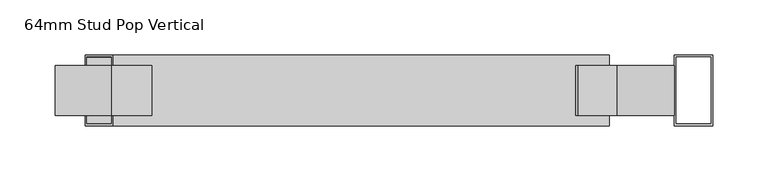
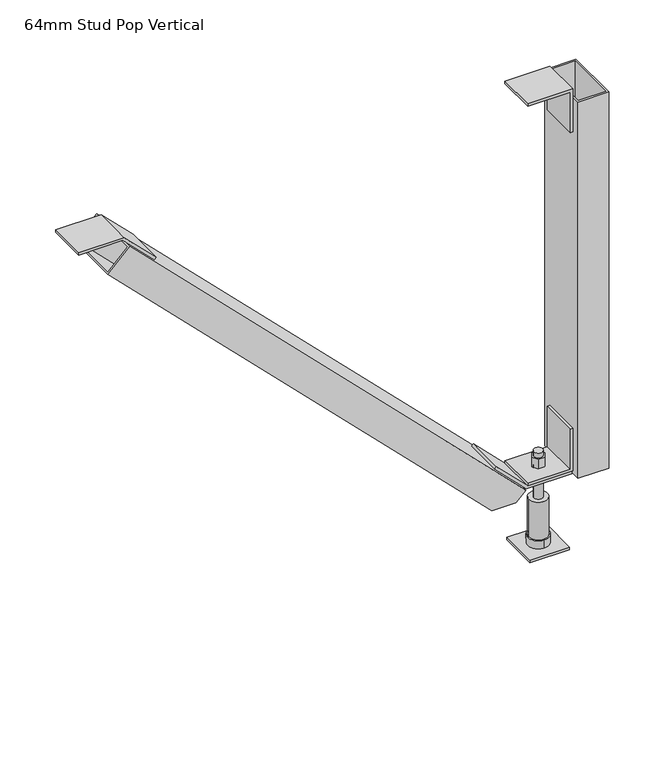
"""IFC4 building model written with IfcOpenShell, lengths in millimetres: beam geometry, Vertibrace Boxstud Brace : 64mm Stud Pop Vertical."""

from ifc_helpers import new_model, si_unit, frame, origin, origin_with_axes, place, context, project, spatial, polyline, circle_curve, outline, extrude, faceted_brep, source, transform, mapped, element, save
from ifc_brep_helpers import plane_surface, cylinder_surface, advanced_brep


def beam_64mm_stud_pop_vertical_4b45963f(model_context):
    return source(origin(), model_context, "Body", "SolidModel", [
        extrude(outline(polyline([(547.0013294, 23.235654), (498.7734408, 23.235654), (498.7734408, 26.2343246), (550.0, 26.2343246), (550.0, -24.9922346), (547.0013294, -24.9922346), (547.0013294, 23.235654)])), frame((0.0, -22.5, 0.0), z_axis=(0.0, 1.0, 0.0), x_axis=(0.0, 0.0, 1.0)), (0.0, 0.0, 1.0), 45.0),
        extrude(outline(polyline([(547.0013294, -483.535654), (511.6569723, -448.1912969), (513.7773526, -446.0709166), (550.0, -482.293564), (550.0, -533.5201232), (547.0013294, -533.5201232), (547.0013294, -483.535654)])), frame((0.0, -22.5, 0.0), z_axis=(0.0, 1.0, 0.0), x_axis=(0.0, 0.0, 1.0)), (0.0, 0.0, 1.0), 45.0),
        extrude(outline(polyline([(95.6986706, 23.235654), (95.6986706, -24.9922346), (92.7, -24.9922346), (92.7, 26.2343246), (143.9265592, 26.2343246), (143.9265592, 23.235654), (95.6986706, 23.235654)])), frame((0.0, -22.5, 0.0), z_axis=(0.0, 1.0, 0.0), x_axis=(0.0, 0.0, 1.0)), (0.0, 0.0, 1.0), 45.0),
        extrude(outline(polyline([(92.6986706, -24.9922346), (128.0430277, -60.3365917), (125.9226474, -62.456972), (89.7, -26.2343246), (89.7, 24.9922346), (92.6986706, 24.9922346), (92.6986706, -24.9922346)])), frame((0.0, -22.5, 0.0), z_axis=(0.0, 1.0, 0.0), x_axis=(0.0, 0.0, 1.0)), (0.0, 0.0, 1.0), 45.0),
        extrude(outline(polyline([(22.5, 22.5), (22.5, -22.5), (-22.5, -22.5), (-22.5, 22.5), (22.5, 22.5)])), origin_with_axes(), (0.0, 0.0, 1.0), 3.0),
        advanced_brep(
        [(-5.0, 0.0, 0.0), (5.0, 0.0, 0.0), (-5.0, 0.0, 113.0), (5.0, 0.0, 113.0), (5.0, 0.0, 3.0), (-5.0, 0.0, 3.0), (-5.0, 0.0, 107.4), (5.0, 0.0, 107.4), (-5.0, 0.0, 58.0), (5.0, 0.0, 58.0), (5.0, 0.0, 83.0), (-5.0, 0.0, 83.0), (5.0, 0.0, 95.7), (-5.0, 0.0, 95.7), (-5.0, 0.0, 89.7), (5.0, 0.0, 89.7), (-10.5, 0.0, 58.0), (10.5, 0.0, 58.0), (-10.5, 0.0, 13.0), (10.5, 0.0, 13.0), (0.0, -12.0, 13.0), (0.0, 12.0, 13.0), (3.75, 6.4951905, 107.4), (-3.75, 6.4951905, 107.4), (-7.5, 0.0, 107.4), (-3.75, -6.4951905, 107.4), (3.75, -6.4951905, 107.4), (7.5, 0.0, 107.4), (3.75, 6.4951905, 95.7), (7.5, 0.0, 95.7), (3.75, -6.4951905, 95.7), (-3.75, -6.4951905, 95.7), (-7.5, 0.0, 95.7), (-3.75, 6.4951905, 95.7), (-10.9696551, 0.0, 89.7), (-5.4848276, -9.5, 89.7), (5.4848276, -9.5, 89.7), (10.9696551, 0.0, 89.7), (5.4848276, 9.5, 89.7), (-5.4848276, 9.5, 89.7), (-10.9696551, 0.0, 83.0), (-5.4848276, 9.5, 83.0), (5.4848276, 9.5, 83.0), (10.9696551, 0.0, 83.0), (5.4848276, -9.5, 83.0), (-5.4848276, -9.5, 83.0), (0.0, -12.0, 3.0), (0.0, 12.0, 3.0)],
        [
            (0, 1, circle_curve(frame((0.0, 0.0, 0.0), z_axis=(0.0, 0.0, -1.0), x_axis=(1.0, 0.0, 0.0)), 5.0)),
            (1, 0, circle_curve(frame((0.0, 0.0, 0.0), z_axis=(0.0, 0.0, -1.0), x_axis=(1.0, 0.0, 0.0)), 5.0)),
            (2, 3, circle_curve(frame((0.0, 0.0, 113.0), z_axis=(0.0, 0.0, 1.0), x_axis=(1.0, 0.0, 0.0)), 5.0)),
            (3, 2, circle_curve(frame((0.0, 0.0, 113.0), z_axis=(0.0, 0.0, 1.0), x_axis=(1.0, 0.0, 0.0)), 5.0)),
            (1, 4),
            (4, 5, circle_curve(frame((0.0, 0.0, 3.0), z_axis=(0.0, 0.0, -1.0), x_axis=(1.0, 0.0, 0.0)), 5.0)),
            (5, 0),
            (2, 6),
            (6, 7, circle_curve(frame((0.0, 0.0, 107.4), z_axis=(0.0, 0.0, 1.0), x_axis=(1.0, 0.0, 0.0)), 5.0)),
            (7, 3),
            (8, 9, circle_curve(frame((0.0, 0.0, 58.0), z_axis=(0.0, 0.0, 1.0), x_axis=(1.0, 0.0, 0.0)), 5.0)),
            (9, 10),
            (10, 11, circle_curve(frame((0.0, 0.0, 83.0), z_axis=(0.0, 0.0, -1.0), x_axis=(1.0, 0.0, 0.0)), 5.0)),
            (11, 8),
            (12, 13, circle_curve(frame((0.0, 0.0, 95.7), z_axis=(0.0, 0.0, -1.0), x_axis=(1.0, 0.0, 0.0)), 5.0)),
            (13, 14),
            (14, 15, circle_curve(frame((0.0, 0.0, 89.7), z_axis=(0.0, 0.0, 1.0), x_axis=(1.0, 0.0, 0.0)), 5.0)),
            (15, 12),
            (5, 4, circle_curve(frame((0.0, 0.0, 3.0), z_axis=(0.0, 0.0, -1.0), x_axis=(1.0, 0.0, 0.0)), 5.0)),
            (7, 6, circle_curve(frame((0.0, 0.0, 107.4), z_axis=(0.0, 0.0, 1.0), x_axis=(1.0, 0.0, 0.0)), 5.0)),
            (9, 8, circle_curve(frame((0.0, 0.0, 58.0), z_axis=(0.0, 0.0, 1.0), x_axis=(1.0, 0.0, 0.0)), 5.0)),
            (11, 10, circle_curve(frame((0.0, 0.0, 83.0), z_axis=(0.0, 0.0, -1.0), x_axis=(1.0, 0.0, 0.0)), 5.0)),
            (13, 12, circle_curve(frame((0.0, 0.0, 95.7), z_axis=(0.0, 0.0, -1.0), x_axis=(1.0, 0.0, 0.0)), 5.0)),
            (15, 14, circle_curve(frame((0.0, 0.0, 89.7), z_axis=(0.0, 0.0, 1.0), x_axis=(1.0, 0.0, 0.0)), 5.0)),
            (16, 17, circle_curve(frame((0.0, 0.0, 58.0), z_axis=(0.0, 0.0, 1.0), x_axis=(1.0, 0.0, 0.0)), 10.5)),
            (17, 16, circle_curve(frame((0.0, 0.0, 58.0), z_axis=(0.0, 0.0, 1.0), x_axis=(1.0, 0.0, 0.0)), 10.5)),
            (16, 18),
            (18, 19, circle_curve(frame((0.0, 0.0, 13.0), z_axis=(0.0, 0.0, 1.0), x_axis=(1.0, 0.0, 0.0)), 10.5)),
            (19, 17),
            (19, 18, circle_curve(frame((0.0, 0.0, 13.0), z_axis=(0.0, 0.0, 1.0), x_axis=(1.0, 0.0, 0.0)), 10.5)),
            (20, 21, circle_curve(frame((0.0, 0.0, 13.0), z_axis=(0.0, 0.0, 1.0), x_axis=(0.0, 1.0, 0.0)), 12.0)),
            (21, 20, circle_curve(frame((0.0, 0.0, 13.0), z_axis=(0.0, 0.0, 1.0), x_axis=(0.0, 1.0, 0.0)), 12.0)),
            (22, 23),
            (23, 24),
            (24, 25),
            (25, 26),
            (26, 27),
            (27, 22),
            (28, 29),
            (29, 30),
            (30, 31),
            (31, 32),
            (32, 33),
            (33, 28),
            (22, 28),
            (33, 23),
            (32, 24),
            (31, 25),
            (30, 26),
            (29, 27),
            (34, 35),
            (35, 36),
            (36, 37),
            (37, 38),
            (38, 39),
            (39, 34),
            (40, 41),
            (41, 42),
            (42, 43),
            (43, 44),
            (44, 45),
            (45, 40),
            (34, 40),
            (45, 35),
            (44, 36),
            (43, 37),
            (42, 38),
            (41, 39),
            (46, 47, circle_curve(frame((0.0, 0.0, 3.0), z_axis=(0.0, 0.0, -1.0), x_axis=(0.0, 1.0, 0.0)), 12.0)),
            (47, 46, circle_curve(frame((0.0, 0.0, 3.0), z_axis=(0.0, 0.0, -1.0), x_axis=(0.0, 1.0, 0.0)), 12.0)),
            (47, 21),
            (20, 46),
        ],
        [
            plane_surface(frame((5.0, 0.0, 0.0), z_axis=(0.0, 0.0, -1.0), x_axis=(0.0, -1.0, 0.0))),
            plane_surface(frame((5.0, 0.0, 113.0), z_axis=(0.0, 0.0, 1.0), x_axis=(0.0, 1.0, 0.0))),
            cylinder_surface(origin_with_axes(), 5.0),
            plane_surface(frame((10.5, 0.0, 58.0), z_axis=(0.0, 0.0, 1.0), x_axis=(0.0, 1.0, 0.0))),
            cylinder_surface(frame((0.0, 0.0, 13.0), z_axis=(0.0, 0.0, 1.0), x_axis=(1.0, 0.0, 0.0)), 10.5),
            plane_surface(frame((0.0, 12.0, 13.0), z_axis=(0.0, 0.0, 1.0), x_axis=(-1.0, 0.0, 0.0))),
            plane_surface(frame((3.75, 6.4951905, 107.4), z_axis=(0.0, 0.0, 1.0), x_axis=(-1.0, 0.0, 0.0))),
            plane_surface(frame((3.75, 6.4951905, 95.7), z_axis=(0.0, 0.0, -1.0), x_axis=(1.0, 0.0, 0.0))),
            plane_surface(frame((3.75, 6.4951905, 107.4), z_axis=(0.0, 1.0, 0.0), x_axis=(0.0, 0.0, -1.0))),
            plane_surface(frame((-3.75, 6.4951905, 107.4), z_axis=(-0.866025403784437, 0.5000000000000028, 0.0), x_axis=(0.0, 0.0, -1.0))),
            plane_surface(frame((-7.5, 0.0, 107.4), z_axis=(-0.8660254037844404, -0.4999999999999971, 0.0), x_axis=(0.0, 0.0, -1.0))),
            plane_surface(frame((-3.75, -6.4951905, 107.4), z_axis=(0.0, -1.0, 0.0), x_axis=(0.0, 0.0, -1.0))),
            plane_surface(frame((3.75, -6.4951905, 107.4), z_axis=(0.8660254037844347, -0.500000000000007, 0.0), x_axis=(0.0, 0.0, -1.0))),
            plane_surface(frame((7.5, 0.0, 107.4), z_axis=(0.8660254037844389, 0.49999999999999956, 0.0), x_axis=(0.0, 0.0, -1.0))),
            plane_surface(frame((-10.9696551, 0.0, 89.7), z_axis=(0.0, 0.0, 1.0000000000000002), x_axis=(0.4999999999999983, -0.8660254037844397, 0.0))),
            plane_surface(frame((-10.9696551, 0.0, 83.0), z_axis=(0.0, 0.0, -1.0000000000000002), x_axis=(-0.4999999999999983, 0.8660254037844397, 0.0))),
            plane_surface(frame((-10.9696551, 0.0, 89.7), z_axis=(-0.8660254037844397, -0.4999999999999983, 0.0), x_axis=(0.0, 0.0, -1.0))),
            plane_surface(frame((-5.4848276, -9.5, 89.7), z_axis=(0.0, -1.0, 0.0), x_axis=(0.0, 0.0, -1.0))),
            plane_surface(frame((5.4848276, -9.5, 89.7), z_axis=(0.8660254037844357, -0.5000000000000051, 0.0), x_axis=(0.0, 0.0, -1.0))),
            plane_surface(frame((10.9696551, 0.0, 89.7), z_axis=(0.8660254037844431, 0.4999999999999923, 0.0), x_axis=(0.0, 0.0, -1.0))),
            plane_surface(frame((5.4848276, 9.5, 89.7), z_axis=(0.0, 1.0, 0.0), x_axis=(0.0, 0.0, -1.0))),
            plane_surface(frame((-5.4848276, 9.5, 89.7), z_axis=(-0.8660254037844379, 0.5000000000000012, 0.0), x_axis=(0.0, 0.0, -1.0))),
            plane_surface(frame((0.0, 12.0, 3.0), z_axis=(0.0, 0.0, -1.0), x_axis=(1.0, 0.0, 0.0))),
            cylinder_surface(frame((0.0, 0.0, 3.0), z_axis=(0.0, 0.0, 1.0), x_axis=(0.0, 1.0, 0.0)), 12.0),
        ],
        [
            (0, [[1, 2]]),
            (1, [[3, 4]]),
            (2, [[-2, 5, 6, 7]]),
            (2, [[-3, 8, 9, 10]]),
            (2, [[11, 12, 13, 14]]),
            (2, [[15, 16, 17, 18]]),
            (2, [[-1, -7, 19, -5]]),
            (2, [[-4, -10, 20, -8]]),
            (2, [[21, -14, 22, -12]]),
            (2, [[23, -18, 24, -16]]),
            (3, [[25, 26], [-11, -21]]),
            (4, [[-25, 27, 28, 29]]),
            (4, [[-26, -29, 30, -27]]),
            (5, [[31, 32], [-28, -30]]),
            (6, [[33, 34, 35, 36, 37, 38], [-9, -20]]),
            (7, [[39, 40, 41, 42, 43, 44], [-15, -23]]),
            (8, [[-33, 45, -44, 46]]),
            (9, [[-34, -46, -43, 47]]),
            (10, [[-35, -47, -42, 48]]),
            (11, [[-36, -48, -41, 49]]),
            (12, [[-37, -49, -40, 50]]),
            (13, [[-38, -50, -39, -45]]),
            (14, [[51, 52, 53, 54, 55, 56], [-17, -24]]),
            (15, [[57, 58, 59, 60, 61, 62], [-13, -22]]),
            (16, [[-51, 63, -62, 64]]),
            (17, [[-52, -64, -61, 65]]),
            (18, [[-53, -65, -60, 66]]),
            (19, [[-54, -66, -59, 67]]),
            (20, [[-55, -67, -58, 68]]),
            (21, [[-56, -68, -57, -63]]),
            (22, [[69, 70], [-6, -19]]),
            (23, [[-70, 71, -31, 72]]),
            (23, [[-69, -72, -32, -71]]),
        ],
    ),
        extrude(outline(polyline([(26.2343246, 32.0), (61.2343246, 32.0), (61.2343246, -32.0), (26.2343246, -32.0), (26.2343246, 32.0)]), holes=[polyline([(59.2343246, -30.0), (59.2343246, 30.0), (28.2343246, 30.0), (28.2343246, -30.0), (59.2343246, -30.0)])]), frame((0.0, 0.0, 89.7), z_axis=(0.0, 0.0, 1.0), x_axis=(1.0, 0.0, 0.0)), (0.0, 0.0, 1.0), 450.3),
        faceted_brep([(-32.5343246, 32.0, 96.0), (-32.5343246, -32.0, 96.0), (-43.5343246, -32.0, 85.0), (-43.5343246, -30.0, 85.0), (-33.9485382, -30.0, 94.5857864), (-33.9485382, 30.0, 94.5857864), (-43.5343246, 30.0, 85.0), (-43.5343246, 32.0, 85.0), (-481.4883773, -32.0, 544.9540527), (-481.4883773, 32.0, 544.9540527), (-506.2371147, 32.0, 520.2053154), (-506.2371147, -32.0, 520.2053154), (-504.8229011, 30.0, 521.6195289), (-482.9025909, 30.0, 543.5398392), (-482.9025909, -30.0, 543.5398392), (-504.8229011, -30.0, 521.6195289), (-71.0317993, -32.0, 85.0), (-71.0317993, 32.0, 85.0), (-68.2033722, 30.0, 85.0), (-68.2033722, -30.0, 85.0)], [[[0, 1, 2, 3, 4, 5, 6, 7]], [[8, 9, 10, 11], [12, 13, 14, 15]], [[8, 11, 16, 2, 1]], [[11, 10, 17, 16]], [[10, 9, 0, 7, 17]], [[1, 0, 9, 8]], [[3, 2, 16, 17, 7, 6, 18, 19]], [[12, 15, 19, 18]], [[15, 14, 4, 3, 19]], [[5, 4, 14, 13]], [[13, 12, 18, 6, 5]]]),
    ])


if __name__ == "__main__":
    model = new_model("IFC4")
    model_context = context("Model", 3, world=origin())
    ifc_project = project(units=[si_unit("LENGTHUNIT", "METRE", prefix="MILLI")], contexts=[model_context])
    site = spatial("IfcSite", under=ifc_project)
    building = spatial("IfcBuilding", under=site)
    placement = place(None, origin())
    beam_64mm_stud_pop_vertical_shape = beam_64mm_stud_pop_vertical_4b45963f(model_context)
    element("IfcBeam", 1, ObjectType="Vertibrace Boxstud Brace : 64mm Stud Pop Vertical", at=placement, inside=building, context=model_context, shape_type="MappedRepresentation", body=[
        mapped(beam_64mm_stud_pop_vertical_shape, transform((0.0, 0.0, 0.0), x_axis=(1.0, 0.0, 0.0), y_axis=(0.0, 1.0, 0.0), z_axis=(0.0, 0.0, 1.0))),
    ])
    save(model, "model.ifc")
